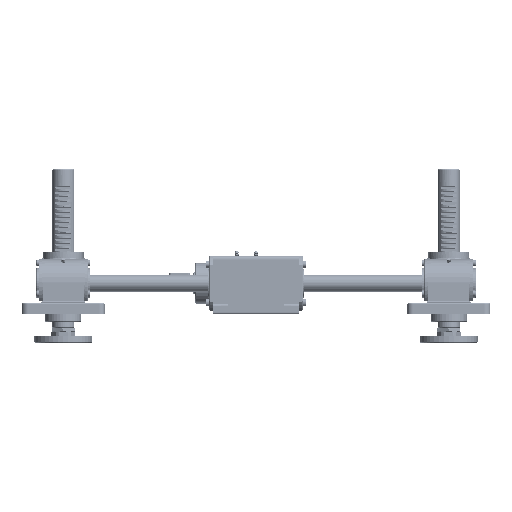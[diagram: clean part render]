
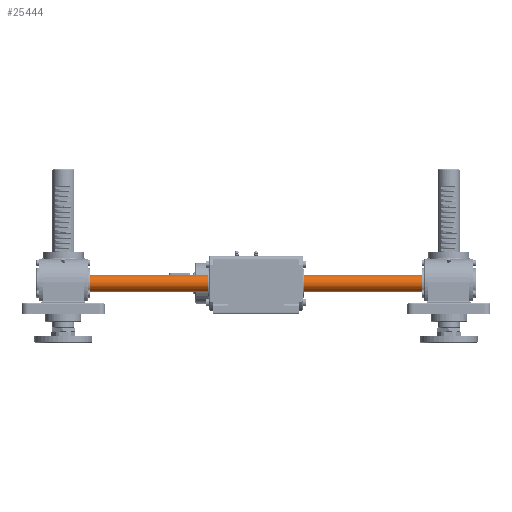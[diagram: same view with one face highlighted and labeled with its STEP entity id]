
A CAD part, left-side view. The second image highlights one B-rep face of the part: STEP entity #25444.
In plain terms, the highlighted cylindrical face has radius 15 mm (diameter 30 mm), a full revolution.
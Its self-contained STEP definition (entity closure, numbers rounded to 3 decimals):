
#25444=ADVANCED_FACE('',(#58077,#58078),#58079,.T.);
#58077=FACE_OUTER_BOUND('',#102971,.T.);
#58078=FACE_OUTER_BOUND('',#102972,.T.);
#58079=CYLINDRICAL_SURFACE('',#102973,15.0);
#102971=EDGE_LOOP('',(#231980));
#102972=EDGE_LOOP('',(#231981));
#102973=AXIS2_PLACEMENT_3D('',#231982,#231983,#231984);
#231980=ORIENTED_EDGE('',*,*,#273458,.F.);
#231981=ORIENTED_EDGE('',*,*,#273460,.F.);
#231982=CARTESIAN_POINT('',(0.0,0.0,0.0));
#231983=DIRECTION('',(0.0,0.0,-1.0));
#231984=DIRECTION('',(1.0,0.0,0.0));
#273458=EDGE_CURVE('',#342436,#342436,#342437,.T.);
#273460=EDGE_CURVE('',#342440,#342440,#342441,.T.);
#342436=VERTEX_POINT('',#459436);
#342437=CIRCLE('',#459437,15.0);
#342440=VERTEX_POINT('',#459440);
#342441=CIRCLE('',#459441,15.0);
#459436=CARTESIAN_POINT('',(15.0,0.,779.0));
#459437=AXIS2_PLACEMENT_3D('',#508396,#508397,#508398);
#459440=CARTESIAN_POINT('',(15.0,0.,1.0));
#459441=AXIS2_PLACEMENT_3D('',#508402,#508403,#508404);
#508396=CARTESIAN_POINT('',(0.0,0.0,779.0));
#508397=DIRECTION('',(0.0,0.0,1.0));
#508398=DIRECTION('',(-1.0,0.0,0.0));
#508402=CARTESIAN_POINT('',(0.0,0.0,1.0));
#508403=DIRECTION('',(0.0,0.0,-1.0));
#508404=DIRECTION('',(-1.0,0.0,0.0));
